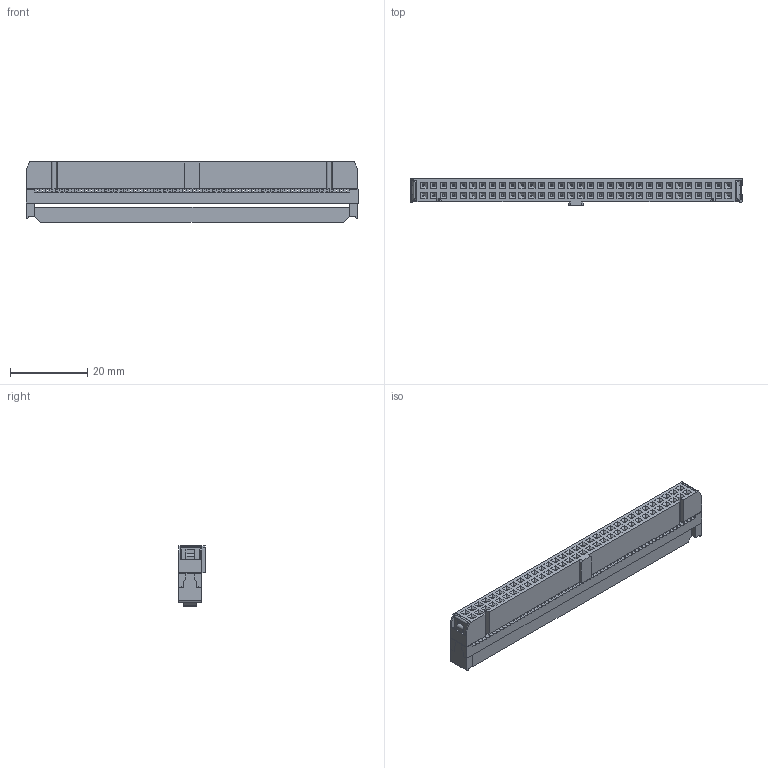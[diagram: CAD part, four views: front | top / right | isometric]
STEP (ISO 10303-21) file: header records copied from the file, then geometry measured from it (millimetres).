
FILE_DESCRIPTION(('FreeCAD Model'),'2;1');
FILE_NAME('C:/Users/Metaltex-99/Desktop/L-64.stp','2020-12-09T08:35:56', ('Engenharia Metaltex'),('Metaltex'),'Open CASCADE STEP processor 7.3' ,'FreeCAD','Unknown');
FILE_SCHEMA(('AUTOMOTIVE_DESIGN { 1 0 10303 214 1 1 1 1 }'));
Length unit declared in the file: millimetre
Products named in the file (4): L-64; 2; 3; 1
Assembly tree (3 placements, depth 2):
  L-64
    2
    3
    1
Bounding box: 85.96 x 6.86 x 15.7 mm (x, y, z)
Volume: 2579.4 mm3; surface area: 10426.3 mm2
Topology: 2 solids, 67 shells, 3525 faces, 9681 edges, 6284 vertices
Faces by surface type: plane 2692, cylinder 810, extrusion 11, sphere 4, torus 4, bspline 4
Entity records: 239159 total; most frequent: CARTESIAN_POINT 42280, DIRECTION 37215, VECTOR 25417, LINE 25406, ORIENTED_EDGE 19354, PCURVE 19354, DEFINITIONAL_REPRESENTATION 19354, EDGE_CURVE 9677
